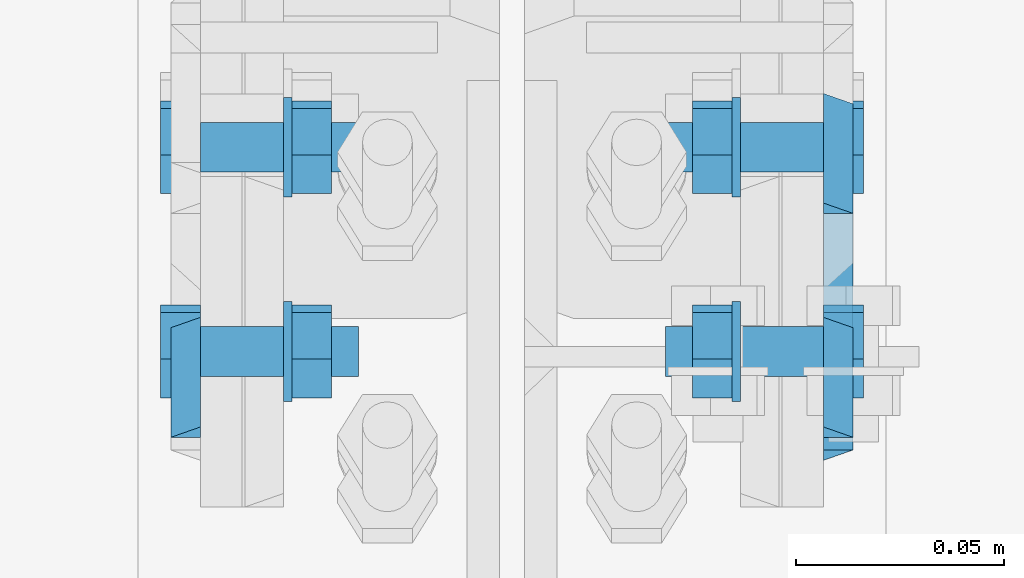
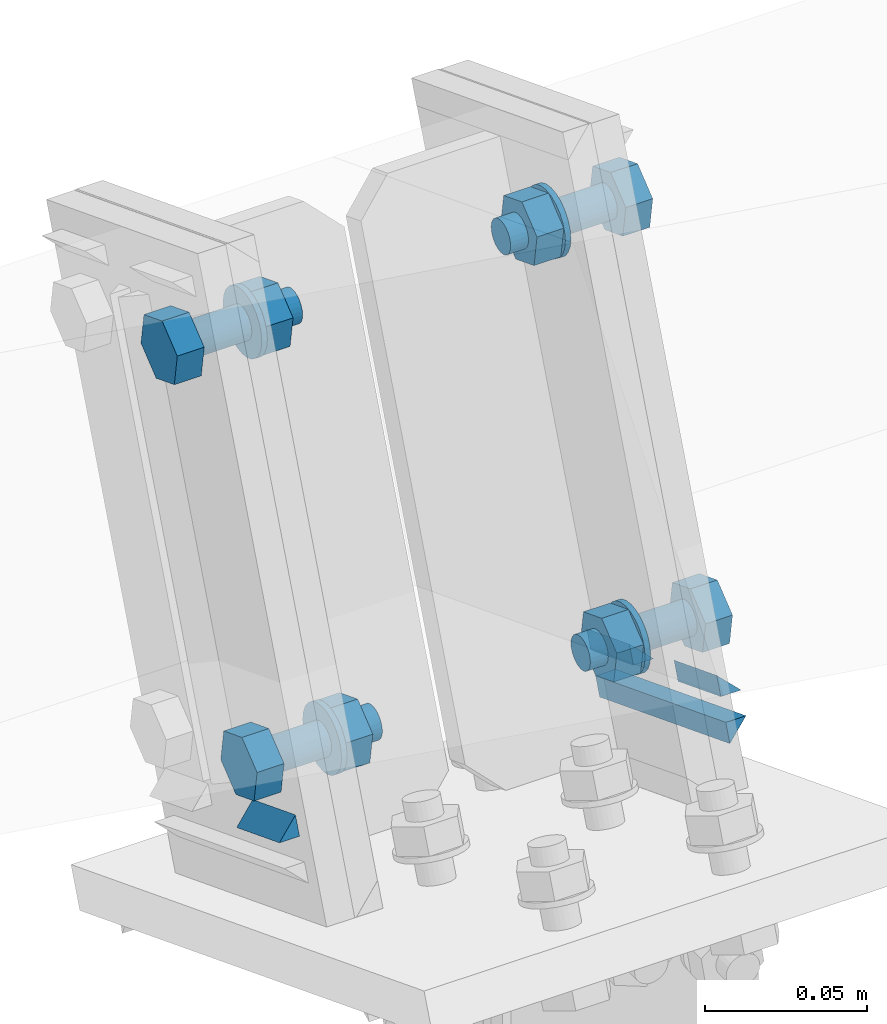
# One storey, part 65 of 72: 16 mechanical fasteners, 7 fasteners.
"""IFC4 building model written with IfcOpenShell, lengths in metres."""

from ifc_helpers import new_model, si_unit, frame, origin_with_axes, place, context, project, spatial, polyline, outline, extrude, type_object, element, save


model = new_model("IFC4")

# Units and contexts
model_context = context("Model", 3, precision=1e-05, world=origin_with_axes())
ifc_project = project(units=[si_unit("LENGTHUNIT", "METRE"), si_unit("AREAUNIT", "SQUARE_METRE"), si_unit("VOLUMEUNIT", "CUBIC_METRE"), si_unit("MASSUNIT", "GRAM", prefix="KILO"), si_unit("TIMEUNIT", "SECOND"), si_unit("PLANEANGLEUNIT", "RADIAN"), si_unit("SOLIDANGLEUNIT", "STERADIAN"), si_unit("THERMODYNAMICTEMPERATUREUNIT", "DEGREE_CELSIUS")], contexts=[model_context])

# Site, building, storey
placement_1 = place(None, origin_with_axes())
site = spatial("IfcSite", under=ifc_project, at=placement_1, Name="Italia", CompositionType="ELEMENT")
building = spatial("IfcBuilding", under=site, at=placement_1, Name="Uffici", CompositionType="ELEMENT")
storey = spatial("IfcBuildingStorey", under=building, at=placement_1, Name="Storey 0", CompositionType="ELEMENT", Elevation=0.0)

# Fastener
fastener_type_1 = type_object("IfcFastenerType", Name="Collegamento 0209_0208", PredefinedType="WELD")
placement_2 = place(placement_1, origin_with_axes())
fastener_1_placement = place(placement_2, origin_with_axes())
element("IfcFastener", 1, at=fastener_1_placement, inside=storey, type_object=fastener_type_1, Name="Collegamento 0209_0208", context=model_context, shape_type="SweptSolid", body=[
    extrude(outline(polyline([(0.0, 0.0), (0.00717354, -0.00695801), (0.0, -0.00695801), (0.0, 0.0)])), frame((9.38005, 4.79314, 5.18345), z_axis=(0.0, 0.932381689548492, -0.361475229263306), x_axis=(-1.0, 0.0, 0.0)), (0.0, 0.0, 1.0), 0.0283009),
])

# Mechanical fasteners
mechanical_fastener_type_1 = type_object("IfcMechanicalFastenerType", Name="Collegamento 0209_0208", PredefinedType="BOLT")
mechanical_fastener_1_placement = place(placement_2, origin_with_axes())
element("IfcMechanicalFastener", 2, at=mechanical_fastener_1_placement, inside=storey, type_object=mechanical_fastener_type_1, Name="Collegamento 0209_0208", NominalDiameter=0.0119998, context=model_context, shape_type="SweptSolid", body=[
    extrude(outline(polyline([(0.0, 0.0), (-0.0111885, -0.00433731), (-0.0205393, 0.00318336), (-0.0187011, 0.0150418), (-0.00751257, 0.0193796), (0.00183821, 0.0118585), (0.0, 0.0)])), frame((9.38, 4.80195, 5.18668), z_axis=(-1.0, 0.0, 0.0), x_axis=(0.0, -1.0, 0.0)), (0.0, 0.0, 1.0), 0.00959969),
])
mechanical_fastener_type_2 = type_object("IfcMechanicalFastenerType", Name="Collegamento 0209_0208", PredefinedType="BOLT")
mechanical_fastener_2_placement = place(placement_2, origin_with_axes())
element("IfcMechanicalFastener", 3, at=mechanical_fastener_2_placement, inside=storey, type_object=mechanical_fastener_type_2, Name="Collegamento 0209_0208", NominalDiameter=0.012, context=model_context, shape_type="SweptSolid", body=[
    extrude(outline(polyline([(0.0, 0.0), (-0.000204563, -0.00155306), (-0.000803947, -0.00299978), (-0.00175762, -0.00424242), (-0.00300026, -0.00519609), (-0.00444698, -0.00579548), (-0.00600004, -0.00600004), (-0.0075531, -0.00579548), (-0.00899982, -0.00519609), (-0.0102425, -0.00424242), (-0.0111961, -0.00299978), (-0.0117955, -0.00155306), (-0.0120001, 0.0), (-0.0117955, 0.00155306), (-0.0111961, 0.00299978), (-0.0102425, 0.00424242), (-0.00899982, 0.00519609), (-0.0075531, 0.00579548), (-0.00600004, 0.00600004), (-0.00444698, 0.00579548), (-0.00300026, 0.00519609), (-0.00175762, 0.00424242), (-0.000803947, 0.00299978), (-0.000204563, 0.00155306), (0.0, 0.0)])), frame((9.418, 4.8053, 5.1942), z_axis=(-1.0, 0.0, 0.0), x_axis=(0.0, -1.0, 0.0)), (0.0, 0.0, 1.0), 0.0380001),
])
mechanical_fastener_type_3 = type_object("IfcMechanicalFastenerType", Name="Collegamento 0209_0208", PredefinedType="BOLT")
mechanical_fastener_3_placement = place(placement_2, origin_with_axes())
element("IfcMechanicalFastener", 4, at=mechanical_fastener_3_placement, inside=storey, type_object=mechanical_fastener_type_3, Name="Collegamento 0209_0208", NominalDiameter=0.0119998, context=model_context, shape_type="SweptSolid", body=[
    extrude(outline(polyline([(0.0, 0.0), (-0.0111885, -0.00433731), (-0.0205393, 0.00318336), (-0.0187011, 0.0150418), (-0.00751257, 0.0193796), (0.00183821, 0.0118585), (0.0, 0.0)])), frame((9.4116, 4.80195, 5.18668), z_axis=(-1.0, 0.0, 0.0), x_axis=(0.0, -1.0, 0.0)), (0.0, 0.0, 1.0), 0.00959969),
])
mechanical_fastener_type_4 = type_object("IfcMechanicalFastenerType", Name="Collegamento 0209_0208", PredefinedType="BOLT")
mechanical_fastener_4_placement = place(placement_2, origin_with_axes())
element("IfcMechanicalFastener", 5, at=mechanical_fastener_4_placement, inside=storey, type_object=mechanical_fastener_type_4, Name="Collegamento 0209_0208", NominalDiameter=0.024, context=model_context, shape_type="SweptSolid", body=[
    extrude(outline(polyline([(0.0, 0.0), (-0.000409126, -0.00310564), (-0.00160789, -0.00600004), (-0.00351477, -0.00848532), (-0.00600004, -0.0103922), (-0.00889444, -0.011591), (-0.0120001, -0.0120001), (-0.0151057, -0.011591), (-0.0180001, -0.0103922), (-0.0204854, -0.00848532), (-0.0223923, -0.00600004), (-0.023591, -0.00310564), (-0.0240002, 0.0), (-0.023591, 0.00310564), (-0.0223923, 0.00600004), (-0.0204854, 0.00848532), (-0.0180001, 0.0103922), (-0.0151057, 0.011591), (-0.0120001, 0.0120001), (-0.00889444, 0.011591), (-0.00600004, 0.0103922), (-0.00351477, 0.00848532), (-0.00160789, 0.00600004), (-0.000409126, 0.00310564), (0.0, 0.0)])), frame((9.402, 4.7993, 5.1942), z_axis=(-1.0, 0.0, 0.0), x_axis=(0.0, -1.0, 0.0)), (0.0, 0.0, 1.0), 0.00199986),
])
mechanical_fastener_type_5 = type_object("IfcMechanicalFastenerType", Name="Collegamento 0209_0208", PredefinedType="BOLT")
mechanical_fastener_5_placement = place(placement_2, origin_with_axes())
element("IfcMechanicalFastener", 6, at=mechanical_fastener_5_placement, inside=storey, type_object=mechanical_fastener_type_5, Name="Collegamento 0209_0208", NominalDiameter=0.0119998, context=model_context, shape_type="SweptSolid", body=[
    extrude(outline(polyline([(0.0, 0.0), (-0.0111885, -0.00433731), (-0.0205393, 0.00318336), (-0.0187016, 0.0150418), (-0.00751305, 0.0193791), (0.00183773, 0.0118585), (0.0, 0.0)])), frame((9.38, 4.85111, 5.31349), z_axis=(-1.0, 0.0, 0.0), x_axis=(0.0, -1.0, 0.0)), (0.0, 0.0, 1.0), 0.00959969),
])
mechanical_fastener_type_6 = type_object("IfcMechanicalFastenerType", Name="Collegamento 0209_0208", PredefinedType="BOLT")
mechanical_fastener_6_placement = place(placement_2, origin_with_axes())
element("IfcMechanicalFastener", 7, at=mechanical_fastener_6_placement, inside=storey, type_object=mechanical_fastener_type_6, Name="Collegamento 0209_0208", NominalDiameter=0.012, context=model_context, shape_type="SweptSolid", body=[
    extrude(outline(polyline([(0.0, 0.0), (-0.000204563, -0.00155306), (-0.000803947, -0.00299978), (-0.00175762, -0.00424242), (-0.00300026, -0.00519609), (-0.00444698, -0.00579548), (-0.00600004, -0.00600004), (-0.0075531, -0.00579548), (-0.00899982, -0.00519609), (-0.0102425, -0.00424242), (-0.0111961, -0.00299978), (-0.0117955, -0.00155306), (-0.0120001, 0.0), (-0.0117955, 0.00155306), (-0.0111961, 0.00299978), (-0.0102425, 0.00424242), (-0.00899982, 0.00519609), (-0.0075531, 0.00579548), (-0.00600004, 0.00600004), (-0.00444698, 0.00579548), (-0.00300026, 0.00519609), (-0.00175762, 0.00424242), (-0.000803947, 0.00299978), (-0.000204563, 0.00155306), (0.0, 0.0)])), frame((9.418, 4.85446, 5.32101), z_axis=(-1.0, 0.0, 0.0), x_axis=(0.0, -1.0, 0.0)), (0.0, 0.0, 1.0), 0.0380001),
])
mechanical_fastener_type_7 = type_object("IfcMechanicalFastenerType", Name="Collegamento 0209_0208", PredefinedType="BOLT")
mechanical_fastener_7_placement = place(placement_2, origin_with_axes())
element("IfcMechanicalFastener", 8, at=mechanical_fastener_7_placement, inside=storey, type_object=mechanical_fastener_type_7, Name="Collegamento 0209_0208", NominalDiameter=0.0119998, context=model_context, shape_type="SweptSolid", body=[
    extrude(outline(polyline([(0.0, 0.0), (-0.0111885, -0.00433731), (-0.0205393, 0.00318336), (-0.0187016, 0.0150418), (-0.00751305, 0.0193791), (0.00183773, 0.0118585), (0.0, 0.0)])), frame((9.4116, 4.85111, 5.31349), z_axis=(-1.0, 0.0, 0.0), x_axis=(0.0, -1.0, 0.0)), (0.0, 0.0, 1.0), 0.00959969),
])
mechanical_fastener_type_8 = type_object("IfcMechanicalFastenerType", Name="Collegamento 0209_0208", PredefinedType="BOLT")
mechanical_fastener_8_placement = place(placement_2, origin_with_axes())
element("IfcMechanicalFastener", 9, at=mechanical_fastener_8_placement, inside=storey, type_object=mechanical_fastener_type_8, Name="Collegamento 0209_0208", NominalDiameter=0.024, context=model_context, shape_type="SweptSolid", body=[
    extrude(outline(polyline([(0.0, 0.0), (-0.000409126, -0.00310564), (-0.00160789, -0.00600004), (-0.00351477, -0.00848532), (-0.00600004, -0.0103922), (-0.00889444, -0.011591), (-0.0120001, -0.0120001), (-0.0151057, -0.011591), (-0.0180001, -0.0103922), (-0.0204854, -0.00848532), (-0.0223923, -0.00600004), (-0.023591, -0.00310564), (-0.0240002, 0.0), (-0.023591, 0.00310564), (-0.0223923, 0.00600004), (-0.0204854, 0.00848532), (-0.0180001, 0.0103922), (-0.0151057, 0.011591), (-0.0120001, 0.0120001), (-0.00889444, 0.011591), (-0.00600004, 0.0103922), (-0.00351477, 0.00848532), (-0.00160789, 0.00600004), (-0.000409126, 0.00310564), (0.0, 0.0)])), frame((9.402, 4.84846, 5.32101), z_axis=(-1.0, 0.0, 0.0), x_axis=(0.0, -1.0, 0.0)), (0.0, 0.0, 1.0), 0.00199986),
])

# Fasteners
fastener_type_2 = type_object("IfcFastenerType", Name="Collegamento 0209_0210", PredefinedType="WELD")
fastener_2_placement = place(placement_2, origin_with_axes())
element("IfcFastener", 10, at=fastener_2_placement, inside=storey, type_object=fastener_type_2, Name="Collegamento 0209_0210", context=model_context, shape_type="SweptSolid", body=[
    extrude(outline(polyline([(0.0, 0.0), (0.00717354, -0.00695753), (0.0, -0.00695753), (0.0, 0.0)])), frame((9.52995, 4.87342, 5.15233), z_axis=(0.0, -0.932390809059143, 0.361451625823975), x_axis=(1.0, 0.0, 0.0)), (0.0, 0.0, 1.0), 0.0283001),
])
fastener_type_3 = type_object("IfcFastenerType", Name="Collegamento 0209_0210", PredefinedType="WELD")
fastener_3_placement = place(placement_2, origin_with_axes())
element("IfcFastener", 11, at=fastener_3_placement, inside=storey, type_object=fastener_type_3, Name="Collegamento 0209_0210", context=model_context, shape_type="SweptSolid", body=[
    extrude(outline(polyline([(0.0, 0.0), (-0.00717354, 0.00695848), (0.0, 0.00695848), (0.0, 0.0)])), frame((9.52995, 4.78507, 5.16264), z_axis=(0.0, 0.932385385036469, -0.361465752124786), x_axis=(-1.0, 0.0, 0.0)), (0.0, 0.0, 1.0), 0.0861),
])
fastener_type_4 = type_object("IfcFastenerType", Name="Collegamento 0209_0210", PredefinedType="WELD")
fastener_4_placement = place(placement_2, origin_with_axes())
element("IfcFastener", 12, at=fastener_4_placement, inside=storey, type_object=fastener_type_4, Name="Collegamento 0209_0210", context=model_context, shape_type="SweptSolid", body=[
    extrude(outline(polyline([(0.0, 0.0), (0.00717354, -0.00695801), (0.0, -0.00695801), (0.0, 0.0)])), frame((9.52995, 4.81952, 5.17322), z_axis=(0.0, -0.932381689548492, 0.361475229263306), x_axis=(1.0, 0.0, 0.0)), (0.0, 0.0, 1.0), 0.0283009),
])
fastener_type_5 = type_object("IfcFastenerType", Name="Collegamento 0209_0210", PredefinedType="WELD")
fastener_5_placement = place(placement_2, origin_with_axes())
element("IfcFastener", 13, at=fastener_5_placement, inside=storey, type_object=fastener_type_5, Name="Collegamento 0209_0210", context=model_context, shape_type="SweptSolid", body=[
    extrude(outline(polyline([(0.0, 0.0), (0.00717354, -0.00695753), (0.0, -0.00695753), (0.0, 0.0)])), frame((9.52995, 4.87342, 5.15233), z_axis=(0.0, -0.932390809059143, 0.361451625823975), x_axis=(1.0, 0.0, 0.0)), (0.0, 0.0, 1.0), 0.0283001),
])
fastener_type_6 = type_object("IfcFastenerType", Name="Collegamento 0209_0210", PredefinedType="WELD")
fastener_6_placement = place(placement_2, origin_with_axes())
element("IfcFastener", 14, at=fastener_6_placement, inside=storey, type_object=fastener_type_6, Name="Collegamento 0209_0210", context=model_context, shape_type="SweptSolid", body=[
    extrude(outline(polyline([(0.0, 0.0), (-0.00717354, 0.00695848), (0.0, 0.00695848), (0.0, 0.0)])), frame((9.52995, 4.78507, 5.16264), z_axis=(0.0, 0.932385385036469, -0.361465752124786), x_axis=(-1.0, 0.0, 0.0)), (0.0, 0.0, 1.0), 0.0861),
])
fastener_type_7 = type_object("IfcFastenerType", Name="Collegamento 0209_0210", PredefinedType="WELD")
fastener_7_placement = place(placement_2, origin_with_axes())
element("IfcFastener", 15, at=fastener_7_placement, inside=storey, type_object=fastener_type_7, Name="Collegamento 0209_0210", context=model_context, shape_type="SweptSolid", body=[
    extrude(outline(polyline([(0.0, 0.0), (0.00717354, -0.00695801), (0.0, -0.00695801), (0.0, 0.0)])), frame((9.52995, 4.81952, 5.17322), z_axis=(0.0, -0.932381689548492, 0.361475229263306), x_axis=(1.0, 0.0, 0.0)), (0.0, 0.0, 1.0), 0.0283009),
])

# Mechanical fasteners
mechanical_fastener_type_9 = type_object("IfcMechanicalFastenerType", Name="Collegamento 0209_0210", PredefinedType="BOLT")
mechanical_fastener_9_placement = place(placement_2, origin_with_axes())
element("IfcMechanicalFastener", 16, at=mechanical_fastener_9_placement, inside=storey, type_object=mechanical_fastener_type_9, Name="Collegamento 0209_0210", NominalDiameter=0.0119998, context=model_context, shape_type="SweptSolid", body=[
    extrude(outline(polyline([(0.0, 0.0), (-0.0111885, 0.00433731), (-0.0130267, 0.0161958), (-0.00367594, 0.0237169), (0.00751257, 0.0193791), (0.00935078, 0.00752068), (0.0, 0.0)])), frame((9.53, 4.81314, 5.18234), z_axis=(1.0, 0.0, 0.0), x_axis=(0.0, 1.0, 0.0)), (0.0, 0.0, 1.0), 0.00959969),
])
mechanical_fastener_type_10 = type_object("IfcMechanicalFastenerType", Name="Collegamento 0209_0210", PredefinedType="BOLT")
mechanical_fastener_10_placement = place(placement_2, origin_with_axes())
element("IfcMechanicalFastener", 17, at=mechanical_fastener_10_placement, inside=storey, type_object=mechanical_fastener_type_10, Name="Collegamento 0209_0210", NominalDiameter=0.012, context=model_context, shape_type="SweptSolid", body=[
    extrude(outline(polyline([(0.0, 0.0), (-0.000204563, -0.00155306), (-0.000803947, -0.00299978), (-0.00175762, -0.00424242), (-0.00300026, -0.00519609), (-0.00444698, -0.00579548), (-0.00600004, -0.00600004), (-0.0075531, -0.00579548), (-0.00899982, -0.00519609), (-0.0102425, -0.00424242), (-0.0111961, -0.00299978), (-0.0117955, -0.00155306), (-0.0120001, 0.0), (-0.0117955, 0.00155306), (-0.0111961, 0.00299978), (-0.0102425, 0.00424242), (-0.00899982, 0.00519609), (-0.0075531, 0.00579548), (-0.00600004, 0.00600004), (-0.00444698, 0.00579548), (-0.00300026, 0.00519609), (-0.00175762, 0.00424242), (-0.000803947, 0.00299978), (-0.000204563, 0.00155306), (0.0, 0.0)])), frame((9.492, 4.8173, 5.1942), z_axis=(1.0, 0.0, 0.0), x_axis=(0.0, 1.0, 0.0)), (0.0, 0.0, 1.0), 0.0380001),
])
mechanical_fastener_type_11 = type_object("IfcMechanicalFastenerType", Name="Collegamento 0209_0210", PredefinedType="BOLT")
mechanical_fastener_11_placement = place(placement_2, origin_with_axes())
element("IfcMechanicalFastener", 18, at=mechanical_fastener_11_placement, inside=storey, type_object=mechanical_fastener_type_11, Name="Collegamento 0209_0210", NominalDiameter=0.0119998, context=model_context, shape_type="SweptSolid", body=[
    extrude(outline(polyline([(0.0, 0.0), (-0.0111885, 0.00433731), (-0.0130267, 0.0161958), (-0.00367594, 0.0237169), (0.00751257, 0.0193791), (0.00935078, 0.00752068), (0.0, 0.0)])), frame((9.4984, 4.81314, 5.18234), z_axis=(1.0, 0.0, 0.0), x_axis=(0.0, 1.0, 0.0)), (0.0, 0.0, 1.0), 0.00959969),
])
mechanical_fastener_type_12 = type_object("IfcMechanicalFastenerType", Name="Collegamento 0209_0210", PredefinedType="BOLT")
mechanical_fastener_12_placement = place(placement_2, origin_with_axes())
element("IfcMechanicalFastener", 19, at=mechanical_fastener_12_placement, inside=storey, type_object=mechanical_fastener_type_12, Name="Collegamento 0209_0210", NominalDiameter=0.024, context=model_context, shape_type="SweptSolid", body=[
    extrude(outline(polyline([(0.0, 0.0), (-0.000409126, -0.00310564), (-0.00160789, -0.00600004), (-0.00351477, -0.00848532), (-0.00600004, -0.0103922), (-0.00889444, -0.011591), (-0.0120001, -0.0120001), (-0.0151057, -0.011591), (-0.0180001, -0.0103922), (-0.0204854, -0.00848532), (-0.0223923, -0.00600004), (-0.023591, -0.00310564), (-0.0240002, 0.0), (-0.023591, 0.00310564), (-0.0223923, 0.00600004), (-0.0204854, 0.00848532), (-0.0180001, 0.0103922), (-0.0151057, 0.011591), (-0.0120001, 0.0120001), (-0.00889444, 0.011591), (-0.00600004, 0.0103922), (-0.00351477, 0.00848532), (-0.00160789, 0.00600004), (-0.000409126, 0.00310564), (0.0, 0.0)])), frame((9.508, 4.8233, 5.1942), z_axis=(1.0, 0.0, 0.0), x_axis=(0.0, 1.0, 0.0)), (0.0, 0.0, 1.0), 0.00199986),
])
mechanical_fastener_type_13 = type_object("IfcMechanicalFastenerType", Name="Collegamento 0209_0210", PredefinedType="BOLT")
mechanical_fastener_13_placement = place(placement_2, origin_with_axes())
element("IfcMechanicalFastener", 20, at=mechanical_fastener_13_placement, inside=storey, type_object=mechanical_fastener_type_13, Name="Collegamento 0209_0210", NominalDiameter=0.0119998, context=model_context, shape_type="SweptSolid", body=[
    extrude(outline(polyline([(0.0, 0.0), (-0.0111885, 0.00433731), (-0.0130262, 0.0161958), (-0.00367546, 0.0237164), (0.00751305, 0.0193791), (0.00935078, 0.00752068), (0.0, 0.0)])), frame((9.53, 4.8623, 5.30915), z_axis=(1.0, 0.0, 0.0), x_axis=(0.0, 1.0, 0.0)), (0.0, 0.0, 1.0), 0.00959969),
])
mechanical_fastener_type_14 = type_object("IfcMechanicalFastenerType", Name="Collegamento 0209_0210", PredefinedType="BOLT")
mechanical_fastener_14_placement = place(placement_2, origin_with_axes())
element("IfcMechanicalFastener", 21, at=mechanical_fastener_14_placement, inside=storey, type_object=mechanical_fastener_type_14, Name="Collegamento 0209_0210", NominalDiameter=0.012, context=model_context, shape_type="SweptSolid", body=[
    extrude(outline(polyline([(0.0, 0.0), (-0.000204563, -0.00155306), (-0.000803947, -0.00299978), (-0.00175762, -0.00424242), (-0.00300026, -0.00519609), (-0.00444698, -0.00579548), (-0.00600004, -0.00600004), (-0.0075531, -0.00579548), (-0.00899982, -0.00519609), (-0.0102425, -0.00424242), (-0.0111961, -0.00299978), (-0.0117955, -0.00155306), (-0.0120001, 0.0), (-0.0117955, 0.00155306), (-0.0111961, 0.00299978), (-0.0102425, 0.00424242), (-0.00899982, 0.00519609), (-0.0075531, 0.00579548), (-0.00600004, 0.00600004), (-0.00444698, 0.00579548), (-0.00300026, 0.00519609), (-0.00175762, 0.00424242), (-0.000803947, 0.00299978), (-0.000204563, 0.00155306), (0.0, 0.0)])), frame((9.492, 4.86646, 5.32101), z_axis=(1.0, 0.0, 0.0), x_axis=(0.0, 1.0, 0.0)), (0.0, 0.0, 1.0), 0.0380001),
])
mechanical_fastener_type_15 = type_object("IfcMechanicalFastenerType", Name="Collegamento 0209_0210", PredefinedType="BOLT")
mechanical_fastener_15_placement = place(placement_2, origin_with_axes())
element("IfcMechanicalFastener", 22, at=mechanical_fastener_15_placement, inside=storey, type_object=mechanical_fastener_type_15, Name="Collegamento 0209_0210", NominalDiameter=0.0119998, context=model_context, shape_type="SweptSolid", body=[
    extrude(outline(polyline([(0.0, 0.0), (-0.0111885, 0.00433731), (-0.0130262, 0.0161958), (-0.00367546, 0.0237164), (0.00751305, 0.0193791), (0.00935078, 0.00752068), (0.0, 0.0)])), frame((9.4984, 4.8623, 5.30915), z_axis=(1.0, 0.0, 0.0), x_axis=(0.0, 1.0, 0.0)), (0.0, 0.0, 1.0), 0.00959969),
])
mechanical_fastener_type_16 = type_object("IfcMechanicalFastenerType", Name="Collegamento 0209_0210", PredefinedType="BOLT")
mechanical_fastener_16_placement = place(placement_2, origin_with_axes())
element("IfcMechanicalFastener", 23, at=mechanical_fastener_16_placement, inside=storey, type_object=mechanical_fastener_type_16, Name="Collegamento 0209_0210", NominalDiameter=0.024, context=model_context, shape_type="SweptSolid", body=[
    extrude(outline(polyline([(0.0, 0.0), (-0.000409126, -0.00310564), (-0.00160789, -0.00600004), (-0.00351477, -0.00848532), (-0.00600004, -0.0103922), (-0.00889444, -0.011591), (-0.0120001, -0.0120001), (-0.0151057, -0.011591), (-0.0180001, -0.0103922), (-0.0204854, -0.00848532), (-0.0223923, -0.00600004), (-0.023591, -0.00310564), (-0.0240002, 0.0), (-0.023591, 0.00310564), (-0.0223923, 0.00600004), (-0.0204854, 0.00848532), (-0.0180001, 0.0103922), (-0.0151057, 0.011591), (-0.0120001, 0.0120001), (-0.00889444, 0.011591), (-0.00600004, 0.0103922), (-0.00351477, 0.00848532), (-0.00160789, 0.00600004), (-0.000409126, 0.00310564), (0.0, 0.0)])), frame((9.508, 4.87246, 5.32101), z_axis=(1.0, 0.0, 0.0), x_axis=(0.0, 1.0, 0.0)), (0.0, 0.0, 1.0), 0.00199986),
])

save(model, "model.ifc")
